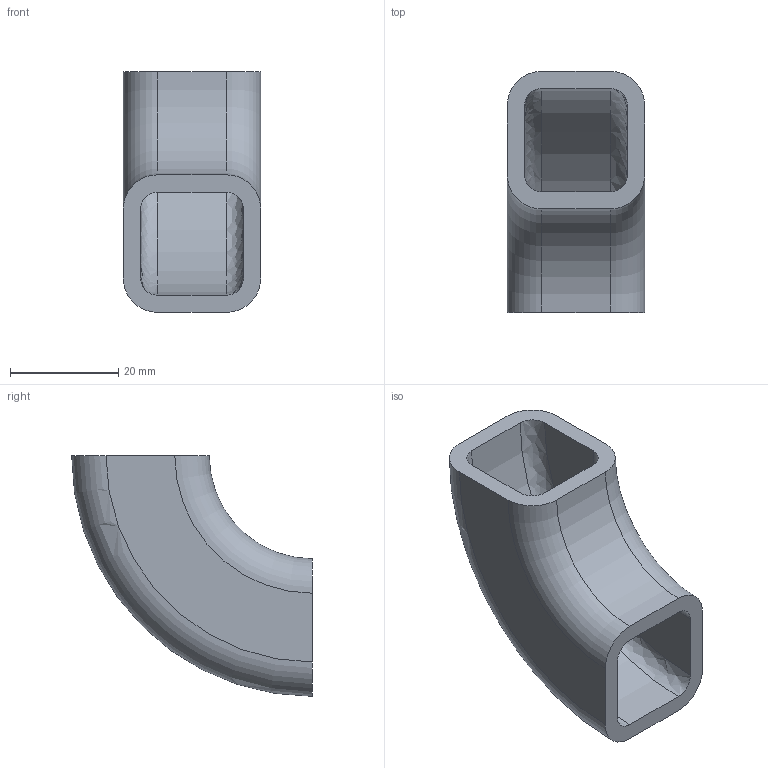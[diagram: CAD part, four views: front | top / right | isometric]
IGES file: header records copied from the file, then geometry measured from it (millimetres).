
Global section: file name: No Iges File Name specified; native system: Autodesk Inventor 2011; preprocessor: AutoDesk Inventor Iges Exporter R2011; author: bamfomg; date: 20110321.072653; units: inch
Bounding box: 25.4 x 44.45 x 44.45 mm (x, y, z)
Volume: 12782.3 mm3; surface area: 8564.4 mm2
Topology: 1 solids, 1 shells, 18 faces, 48 edges, 32 vertices
Faces by surface type: revolution 6, plane 6, torus 4, cylinder 2
